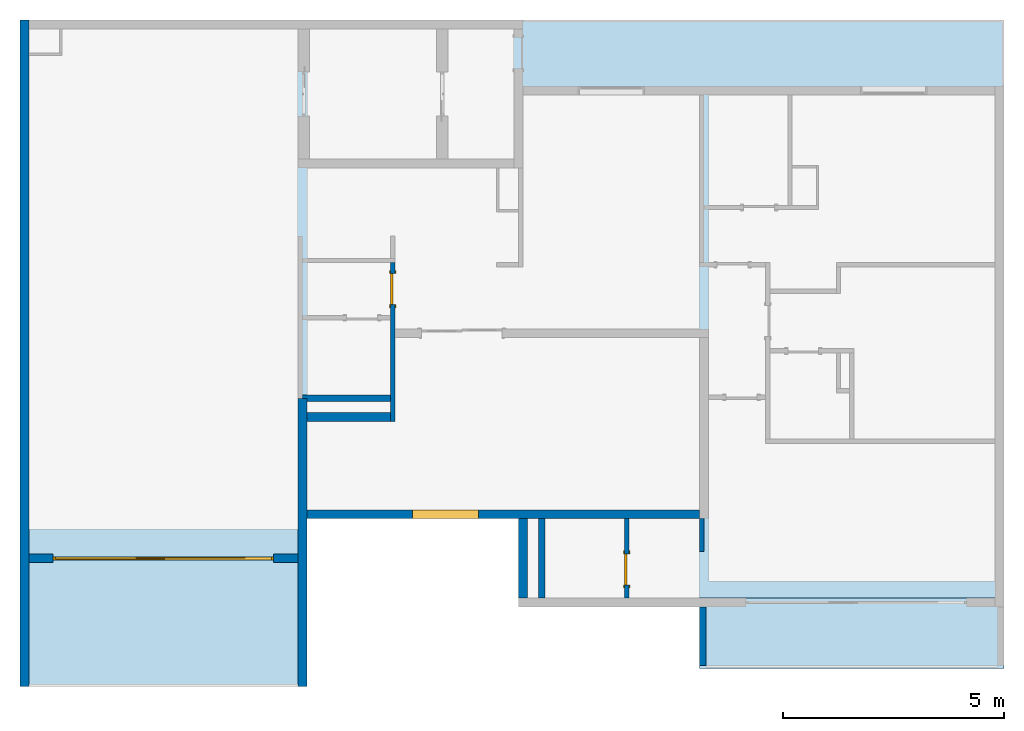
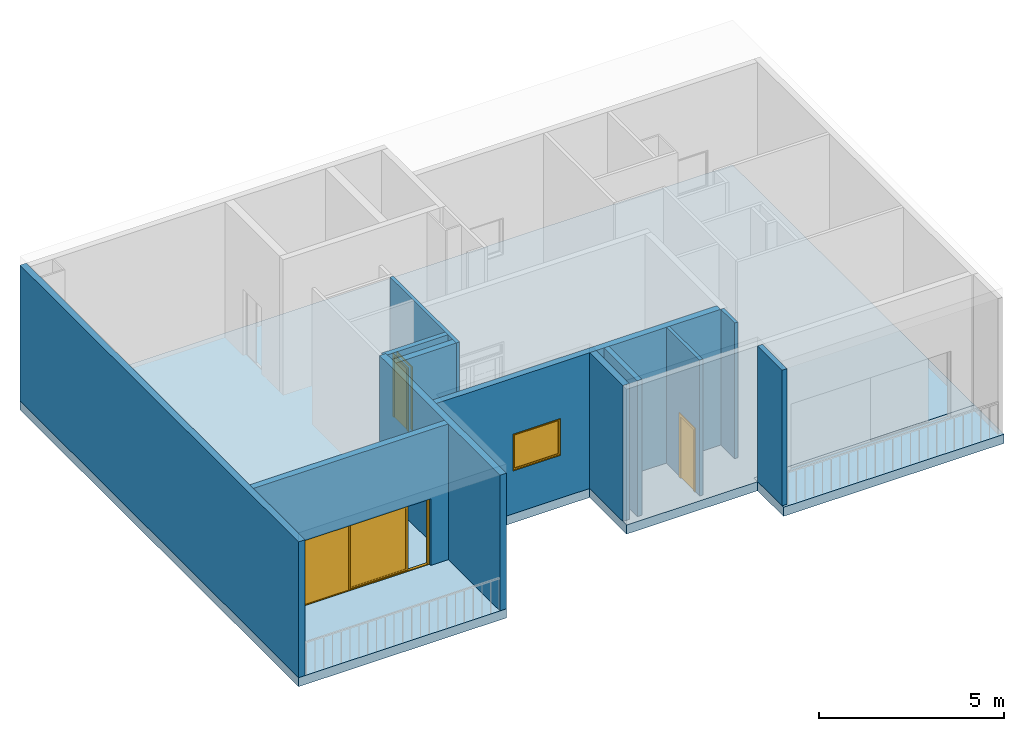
# One storey, part 1 of 7: 12 walls, 3 doors, 2 slabs, 1 window, 4 openings.
"""IFC2X3 building model written with IfcOpenShell, lengths in metres."""

from ifc_helpers import new_model, entity, si_unit, converted_unit, derived_unit, direction, frame, frame_2d, origin, origin_2d_with_axis, place, context, subcontext, project, spatial, polyline, rectangle, outline, extrude, faceted_brep, source, transform, mapped, material, material_list, layer, layer_set, layer_usage, type_object, type_shapes, element, fill, save


model = new_model("IFC2X3")

# Units and contexts
model_context = context("Model", 3, precision=1e-05, world=origin(), true_north=direction((6.123031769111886e-17, 1.0)))
body_context = subcontext(model_context, "Body", "Model", "MODEL_VIEW")
ifc_project = project(units=[si_unit("LENGTHUNIT", "METRE"), si_unit("AREAUNIT", "SQUARE_METRE"), si_unit("VOLUMEUNIT", "CUBIC_METRE"), converted_unit("PLANEANGLEUNIT", "DEGREE", entity("IfcRatioMeasure", 0.017453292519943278), si_unit("PLANEANGLEUNIT", "RADIAN"), dimensions=[0, 0, 0, 0, 0, 0, 0]), si_unit("MASSUNIT", "GRAM", prefix="KILO"), derived_unit("MASSDENSITYUNIT", [(si_unit("MASSUNIT", "GRAM", prefix="KILO"), 1), (si_unit("LENGTHUNIT", "METRE"), -3)]), derived_unit("MOMENTOFINERTIAUNIT", [(si_unit("LENGTHUNIT", "METRE"), 4)]), si_unit("TIMEUNIT", "SECOND"), si_unit("FREQUENCYUNIT", "HERTZ"), si_unit("THERMODYNAMICTEMPERATUREUNIT", "DEGREE_CELSIUS"), derived_unit("THERMALTRANSMITTANCEUNIT", [(si_unit("MASSUNIT", "GRAM", prefix="KILO"), 1), (si_unit("THERMODYNAMICTEMPERATUREUNIT", "KELVIN"), -1), (si_unit("TIMEUNIT", "SECOND"), -3)]), derived_unit("VOLUMETRICFLOWRATEUNIT", [(si_unit("LENGTHUNIT", "METRE"), 3), (si_unit("TIMEUNIT", "SECOND"), -1)]), derived_unit("MASSFLOWRATEUNIT", [(si_unit("MASSUNIT", "GRAM", prefix="KILO"), 1), (si_unit("TIMEUNIT", "SECOND"), -1)]), derived_unit("ROTATIONALFREQUENCYUNIT", [(si_unit("TIMEUNIT", "SECOND"), -1)]), si_unit("ELECTRICCURRENTUNIT", "AMPERE"), si_unit("ELECTRICVOLTAGEUNIT", "VOLT"), si_unit("POWERUNIT", "WATT"), si_unit("FORCEUNIT", "NEWTON", prefix="KILO"), si_unit("ILLUMINANCEUNIT", "LUX"), si_unit("LUMINOUSFLUXUNIT", "LUMEN"), si_unit("LUMINOUSINTENSITYUNIT", "CANDELA"), derived_unit("USERDEFINED", [(si_unit("MASSUNIT", "GRAM", prefix="KILO"), -1), (si_unit("LENGTHUNIT", "METRE"), -2), (si_unit("TIMEUNIT", "SECOND"), 3), (si_unit("LUMINOUSFLUXUNIT", "LUMEN"), 1)]), derived_unit("SOUNDPOWERUNIT", [(si_unit("MASSUNIT", "GRAM", prefix="KILO"), 1), (si_unit("LENGTHUNIT", "METRE"), 2), (si_unit("TIMEUNIT", "SECOND"), -3)]), derived_unit("SOUNDPRESSUREUNIT", [(si_unit("MASSUNIT", "GRAM", prefix="KILO"), 1), (si_unit("LENGTHUNIT", "METRE"), -1), (si_unit("TIMEUNIT", "SECOND"), -2)]), derived_unit("LINEARVELOCITYUNIT", [(si_unit("LENGTHUNIT", "METRE"), 1), (si_unit("TIMEUNIT", "SECOND"), -1)]), si_unit("PRESSUREUNIT", "PASCAL"), derived_unit("USERDEFINED", [(si_unit("LENGTHUNIT", "METRE"), -2), (si_unit("MASSUNIT", "GRAM", prefix="KILO"), 1), (si_unit("TIMEUNIT", "SECOND"), -2)]), derived_unit("LINEARFORCEUNIT", [(si_unit("MASSUNIT", "GRAM", prefix="KILO"), 1), (si_unit("LENGTHUNIT", "METRE"), 1), (si_unit("TIMEUNIT", "SECOND"), -2), (si_unit("LENGTHUNIT", "METRE"), -1)]), derived_unit("PLANARFORCEUNIT", [(si_unit("MASSUNIT", "GRAM", prefix="KILO"), 1), (si_unit("LENGTHUNIT", "METRE"), 1), (si_unit("TIMEUNIT", "SECOND"), -2), (si_unit("LENGTHUNIT", "METRE"), -2)])], contexts=[model_context])

# Site, building, storey
site_placement = place(None, origin())
site = spatial("IfcSite", under=ifc_project, at=site_placement, Name="Default", CompositionType="ELEMENT")
building_placement = place(site_placement, origin())
building = spatial("IfcBuilding", under=site, at=building_placement, CompositionType="ELEMENT")
storey_placement = place(building_placement, frame((0.0, 0.0, 5.639999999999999)))
storey = spatial("IfcBuildingStorey", under=building, at=storey_placement, Name="F1", CompositionType="ELEMENT", Elevation=5.639999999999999)

# Slabs
ifc_material_1 = material(Name="Default Floor")
ifc_layer_1 = layer(ifc_material_1, 0.29999999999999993)
ifc_layer_set_1 = layer_set([ifc_layer_1], Name="Floor:Generic 300mm")
ifc_layer_usage_1 = layer_usage(ifc_layer_set_1, "AXIS3", "POSITIVE", 0.0)
slab_type_1 = type_object("IfcSlabType", Name="Floor:Generic 300mm", PredefinedType="FLOOR", material=ifc_layer_set_1)
slab_1_placement = place(storey_placement, origin())
element("IfcSlab", 1, at=slab_1_placement, inside=storey, type_object=slab_type_1, material=ifc_layer_usage_1, Name="Floor:Generic 300mm", ObjectType="Floor:Generic 300mm", PredefinedType="FLOOR", context=body_context, shape_type="SweptSolid", body=[
    extrude(outline(polyline([(-5.174999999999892, -10.025000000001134), (9.924999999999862, -10.025000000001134), (9.924999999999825, 12.275000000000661), (-3.375000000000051, 12.275000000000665), (-3.375000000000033, 1.2750000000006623), (-1.3749999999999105, 1.275000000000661), (-1.3749999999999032, -3.525000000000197), (-5.174999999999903, -3.525000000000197), (-5.174999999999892, -10.025000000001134)])), frame((16.63268321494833, -3.922392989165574, 0.0), z_axis=(0.0, 0.0, -1.0), x_axis=(0.0, 1.0, 0.0)), (0.0, 0.0, 1.0), 0.30000000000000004),
])
ifc_layer_usage_2 = layer_usage(ifc_layer_set_1, "AXIS3", "POSITIVE", 0.0)
slab_type_2 = type_object("IfcSlabType", Name="Floor:Generic 300mm", PredefinedType="FLOOR", material=ifc_layer_set_1)
slab_2_placement = place(storey_placement, origin())
element("IfcSlab", 2, at=slab_2_placement, inside=storey, type_object=slab_type_2, material=ifc_layer_usage_2, Name="Floor:Generic 300mm", ObjectType="Floor:Generic 300mm", PredefinedType="FLOOR", context=body_context, shape_type="SweptSolid", body=[
    extrude(rectangle(XDim=1.6000000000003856, YDim=6.899999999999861, at=origin_2d_with_axis()), frame((25.457683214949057, -7.8973929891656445, 0.0), z_axis=(0.0, 0.0, -1.0), x_axis=(0.0, 1.0, 0.0)), (0.0, 0.0, 1.0), 0.30000000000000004),
])

# Walls
ifc_material_2 = material(Name="Masonry - Concrete Block")
ifc_layer_2 = layer(ifc_material_2, 0.2)
ifc_layer_set_2 = layer_set([ifc_layer_2], Name="Basic Wall:CW 200")
ifc_layer_usage_3 = layer_usage(ifc_layer_set_2, "AXIS2", "NEGATIVE", 0.1)
wall_type_1 = type_object("IfcWallType", Name="Basic Wall:CW 200", PredefinedType="STANDARD", material=ifc_layer_set_2)
wall_1_placement = place(storey_placement, frame((6.707683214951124, -9.097392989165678, 0.0), z_axis=(0.0, 0.0, 1.0), x_axis=(0.0, 1.0, 0.0)))
element("IfcWallStandardCase", 3, at=wall_1_placement, inside=storey, type_object=wall_type_1, material=ifc_layer_usage_3, Name="Basic Wall:CW 200", ObjectType="Basic Wall:CW 200", context=body_context, shape_type="SweptSolid", body=[
    extrude(rectangle(XDim=15.100000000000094, YDim=0.2, at=frame_2d((7.550000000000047, 1.5959455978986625e-16), x_axis=(-1.0, 0.0))), origin(), (0.0, 0.0, 1.0), 4.490000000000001),
])
ifc_layer_usage_4 = layer_usage(ifc_layer_set_2, "AXIS2", "NEGATIVE", 0.1)
wall_2_placement = place(storey_placement, frame((13.007683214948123, -9.097392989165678, 0.0), z_axis=(0.0, 0.0, 1.0), x_axis=(0.0, 1.0, 0.0)))
element("IfcWallStandardCase", 4, at=wall_2_placement, inside=storey, type_object=wall_type_1, material=ifc_layer_usage_4, Name="Basic Wall:CW 200", ObjectType="Basic Wall:CW 200", context=body_context, shape_type="SweptSolid", body=[
    extrude(rectangle(XDim=6.52500000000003, YDim=0.19999999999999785, at=frame_2d((3.262500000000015, -3.469446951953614e-17), x_axis=(-1.0, 0.0))), origin(), (0.0, 0.0, 1.0), 4.490000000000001),
])

# Wall, opening, door
ifc_layer_usage_5 = layer_usage(ifc_layer_set_2, "AXIS2", "NEGATIVE", 0.1)
wall_3_placement = place(storey_placement, frame((12.907683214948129, -6.197392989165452, 0.0), z_axis=(0.0, 0.0, 1.0), x_axis=(-1.0, 0.0, 0.0)))
wall_3 = element("IfcWallStandardCase", 5, at=wall_3_placement, inside=storey, type_object=wall_type_1, material=ifc_layer_usage_5, Name="Basic Wall:CW 200", ObjectType="Basic Wall:CW 200", context=body_context, shape_type="SweptSolid", body=[
    extrude(rectangle(XDim=6.099999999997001, YDim=0.2, at=frame_2d((3.0499999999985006, 0.0), x_axis=(1.0, 0.0))), origin(), (0.0, 0.0, 1.0), 4.490000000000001),
])
opening_1_placement = place(wall_3_placement, frame((5.549999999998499, 0.09999999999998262, 0.0)))
opening_1 = element("IfcOpeningElement", 6, at=opening_1_placement, cuts=wall_3, Name="Parametric_Operable_Sliding_Door_6386.0004:5M:1", ObjectType="Opening", context=body_context, shape_type="SweptSolid", body=[
    extrude(rectangle(XDim=2.199999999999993, YDim=4.999999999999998, at=frame_2d((1.0999999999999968, 2.499999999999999), x_axis=(1.0, 0.0))), frame((0.0, 0.0, 0.0), z_axis=(0.0, -1.0, 0.0), x_axis=(0.0, 0.0, 1.0)), (0.0, 0.0, 1.0), 0.2),
])
ifc_material_3 = material(Name="Window Glass")
ifc_material_4 = material(Name="Window Frame")
ifc_material_list_1 = material_list([ifc_material_3, ifc_material_4])
ifc_material_list_2 = material_list([ifc_material_3, ifc_material_4, ifc_material_3, ifc_material_4])
door_style_1 = type_object("IfcDoorStyle", Name="Parametric_Operable_Sliding_Door_6386.0004:5M", ConstructionType="NOTDEFINED", OperationType="NOTDEFINED", ParameterTakesPrecedence=False, Sizeable=False, material=ifc_material_list_2)
shared_shape_1 = source(origin(), body_context, "Body", "Brep", [
    faceted_brep([(0.7200000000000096, 0.0875000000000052, 2.080000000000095), (0.7200000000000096, 0.0875000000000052, 0.07000000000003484), (0.7200000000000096, 0.0775000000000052, 0.07000000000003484), (0.7200000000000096, 0.0775000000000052, 2.080000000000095), (3.0550000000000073, 0.0875000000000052, 2.080000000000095), (3.0550000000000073, 0.0875000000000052, 0.07000000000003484), (3.0550000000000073, 0.0775000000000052, 0.07000000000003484), (3.0550000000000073, 0.0775000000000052, 2.080000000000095)], [[[0, 1, 2, 3]], [[1, 0, 4, 5]], [[2, 1, 5, 6]], [[3, 2, 6, 7]], [[4, 7, 6, 5]], [[0, 3, 7, 4]]]),
    faceted_brep([(0.7200000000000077, 0.09499999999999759, 0.06999999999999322), (0.7200000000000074, 0.06999999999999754, 0.06999999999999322), (3.055000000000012, 0.06999999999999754, 0.06999999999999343), (3.055000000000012, 0.09499999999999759, 0.0699999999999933), (0.7200000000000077, 0.09499999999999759, 2.080000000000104), (0.7200000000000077, 0.06999999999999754, 2.080000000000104), (3.05500000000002, 0.09499999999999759, 2.080000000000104), (3.125000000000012, 0.09499999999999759, 2.150000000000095), (3.125000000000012, 0.09499999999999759, 0.02500000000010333), (0.6500000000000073, 0.09499999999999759, 0.0250000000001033), (0.6500000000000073, 0.09499999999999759, 2.1499999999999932), (3.055000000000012, 0.06999999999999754, 2.080000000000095), (0.6500000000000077, 0.06999999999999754, 2.1500000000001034), (0.6500000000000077, 0.06999999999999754, 0.02500000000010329), (3.125000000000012, 0.06999999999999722, 0.02500000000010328), (3.125000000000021, 0.06999999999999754, 2.1499999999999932), (0.04999999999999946, 0.06500000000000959, 0.02500000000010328), (4.949999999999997, 0.06499999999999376, 0.025000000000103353), (4.949999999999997, 0.13499999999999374, 0.025000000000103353), (0.05, 0.13500000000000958, 0.02500000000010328), (5.0, 0.0649999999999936, 0.0), (5.0, 0.0649999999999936, 2.199999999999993), (0.0, 0.06500000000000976, 2.199999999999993), (0.0, 0.06500000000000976, 0.0), (0.05, 0.06500000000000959, 2.1499999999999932), (4.949999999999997, 0.06499999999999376, 2.1499999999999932), (0.0, 0.13500000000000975, 0.0), (5.0, 0.1349999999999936, 0.0), (0.0, 0.13500000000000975, 2.199999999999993), (5.0, 0.1349999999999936, 2.199999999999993), (0.05, 0.13500000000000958, 2.1499999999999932), (4.949999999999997, 0.13499999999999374, 2.1499999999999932)], [[[0, 1, 2, 3]], [[1, 0, 4, 5]], [[4, 0, 3, 6], [7, 8, 9, 10]], [[1, 5, 11, 2], [12, 13, 14, 15]], [[13, 12, 10, 9]], [[13, 9, 8, 14], [16, 17, 18, 19]], [[11, 6, 3, 2]], [[15, 14, 8, 7]], [[20, 21, 22, 23], [24, 25, 17, 16]], [[20, 23, 26, 27]], [[23, 22, 28, 26]], [[27, 26, 28, 29], [30, 19, 18, 31]], [[21, 20, 27, 29]], [[17, 25, 31, 18]], [[24, 16, 19, 30]], [[5, 4, 6, 11]], [[22, 21, 29, 28]], [[10, 12, 15, 7], [25, 24, 30, 31]]], outer=[[True], [True], [False, True], [False, True], [True], [False, True], [True], [True], [True, False], [True], [True], [True, False], [True], [True], [True], [True], [True], [False, True]]),
    faceted_brep([(2.5249999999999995, 0.11499999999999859, 2.1499999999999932), (2.5249999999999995, 0.11499999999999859, 0.02500000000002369), (4.949999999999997, 0.11499999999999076, 0.02500000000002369), (4.949999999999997, 0.11499999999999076, 2.1499999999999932), (2.5249999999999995, 0.12099999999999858, 2.1499999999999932), (2.5249999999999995, 0.12099999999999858, 0.02500000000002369), (4.949999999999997, 0.12099999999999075, 0.02500000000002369), (4.949999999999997, 0.12099999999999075, 2.1499999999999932)], [[[0, 1, 2, 3]], [[1, 0, 4, 5]], [[2, 1, 5, 6]], [[3, 2, 6, 7]], [[4, 7, 6, 5]], [[0, 3, 7, 4]]]),
    faceted_brep([(2.474999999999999, 0.09999999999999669, 2.1499999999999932), (2.474999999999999, 0.09999999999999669, 0.025000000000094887), (2.5249999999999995, 0.09999999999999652, 0.02500000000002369), (2.5249999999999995, 0.09999999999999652, 2.1499999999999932), (2.474999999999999, 0.1300000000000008, 2.1499999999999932), (2.474999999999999, 0.1300000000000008, 0.025000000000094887), (2.5249999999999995, 0.13000000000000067, 0.02500000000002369), (2.5249999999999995, 0.13000000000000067, 2.1499999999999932)], [[[0, 1, 2, 3]], [[1, 0, 4, 5]], [[2, 1, 5, 6]], [[3, 2, 6, 7]], [[4, 7, 6, 5]], [[0, 3, 7, 4]]]),
])
type_shapes(door_style_1, [shared_shape_1])
door_1_placement = place(opening_1_placement, frame((-5.0, -0.1999999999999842, 0.0)))
door_1 = element("IfcDoor", 7, at=door_1_placement, inside=storey, type_object=door_style_1, material=ifc_material_list_1, Name="Parametric_Operable_Sliding_Door_6386.0004:5M", ObjectType="Parametric_Operable_Sliding_Door_6386.0004:5M", OverallHeight=2.1999999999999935, OverallWidth=4.999999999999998, context=body_context, shape_type="MappedRepresentation", body=[
    mapped(shared_shape_1, transform((0.0, 0.0, 0.0), scale=1.0)),
])
fill(opening_1, door_1)

# Wall
ifc_layer_usage_6 = layer_usage(ifc_layer_set_2, "AXIS2", "NEGATIVE", 0.1)
wall_4_placement = place(storey_placement, frame((13.107683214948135, -2.997392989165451, 0.0)))
element("IfcWallStandardCase", 8, at=wall_4_placement, inside=storey, type_object=wall_type_1, material=ifc_layer_usage_6, Name="Basic Wall:CW 200", ObjectType="Basic Wall:CW 200", context=body_context, shape_type="SweptSolid", body=[
    extrude(rectangle(XDim=1.900000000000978, YDim=0.2, at=frame_2d((0.950000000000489, 1.1102230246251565e-16), x_axis=(-1.0, 0.0))), origin(), (0.0, 0.0, 1.0), 4.490000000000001),
])

# Wall, opening, window
ifc_layer_usage_7 = layer_usage(ifc_layer_set_2, "AXIS2", "NEGATIVE", 0.1)
wall_5_placement = place(storey_placement, frame((22.00768321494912, -5.20029257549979, 0.0), z_axis=(0.0, 0.0, 1.0), x_axis=(-1.0, 0.0, 0.0)))
wall_5 = element("IfcWallStandardCase", 9, at=wall_5_placement, inside=storey, type_object=wall_type_1, material=ifc_layer_usage_7, Name="Basic Wall:CW 200", ObjectType="Basic Wall:CW 200", context=body_context, shape_type="SweptSolid", body=[
    extrude(rectangle(XDim=8.900000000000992, YDim=0.2, at=frame_2d((4.450000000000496, -4.163336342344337e-17), x_axis=(-1.0, 0.0))), origin(), (0.0, 0.0, 1.0), 4.490000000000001),
])
opening_2_placement = place(wall_5_placement, frame((5.007500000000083, -0.10000000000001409, 1.4150000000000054)))
opening_2 = element("IfcOpeningElement", 10, at=opening_2_placement, cuts=wall_5, Name="M_Fixed:0915 x 1220mm:1", ObjectType="Opening", context=body_context, shape_type="SweptSolid", body=[
    extrude(rectangle(XDim=1.2199999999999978, YDim=1.4999999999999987, at=frame_2d((0.6099999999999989, 0.7499999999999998), x_axis=(1.0, 0.0))), frame((0.0, 0.0, 0.0), z_axis=(0.0, 1.0, 0.0), x_axis=(0.0, 0.0, 1.0)), (0.0, 0.0, 1.0), 0.2),
])
ifc_material_5 = material(Name="Glass")
ifc_material_6 = material(Name="Sash")
ifc_material_list_3 = material_list([ifc_material_5, ifc_material_6, ifc_material_6, ifc_material_6])
ifc_material_list_4 = material_list([ifc_material_5, ifc_material_6, ifc_material_6, ifc_material_6])
window_style = type_object("IfcWindowStyle", Name="M_Fixed:0915 x 1220mm", ConstructionType="NOTDEFINED", OperationType="NOTDEFINED", ParameterTakesPrecedence=False, Sizeable=False, material=ifc_material_list_4)
shared_shape_2 = source(origin(), body_context, "Body", "SweptSolid", [
    extrude(rectangle(XDim=0.011999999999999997, YDim=1.3739999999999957, at=frame_2d((8.239936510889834e-18, 0.0), x_axis=(1.0, 0.0))), frame((0.7500000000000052, 0.15899999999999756, 0.06299999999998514), z_axis=(0.0, 0.0, 1.0), x_axis=(0.0, -1.0, 0.0)), (0.0, 0.0, 1.0), 1.0940000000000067),
    extrude(outline(polyline([(-0.7309999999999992, -0.5910000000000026), (0.7309999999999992, -0.5910000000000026), (0.7309999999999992, 0.5910000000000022), (-0.7309999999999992, 0.5910000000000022), (-0.7309999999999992, -0.5910000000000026)]), holes=[polyline([(-0.686999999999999, -0.5470000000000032), (-0.686999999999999, 0.5470000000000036), (0.6869999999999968, 0.5470000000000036), (0.6869999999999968, -0.5470000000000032), (-0.686999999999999, -0.5470000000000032)])]), frame((0.7500000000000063, 0.13699999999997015, 0.6099999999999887), z_axis=(0.0, 1.0, 0.0), x_axis=(1.0, 0.0, 0.0)), (0.0, 0.0, 1.0), 0.04400000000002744),
    extrude(outline(polyline([(-0.749999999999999, -0.609999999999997), (0.749999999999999, -0.609999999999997), (0.749999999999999, 0.609999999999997), (-0.749999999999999, 0.609999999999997), (-0.749999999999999, -0.609999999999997)]), holes=[polyline([(-0.7310000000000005, -0.5909999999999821), (-0.7310000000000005, 0.5910000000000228), (0.7309999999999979, 0.5910000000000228), (0.7309999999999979, -0.5909999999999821), (-0.7310000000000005, -0.5909999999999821)])]), frame((0.7500000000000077, 0.13699999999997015, 0.6100000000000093), z_axis=(0.0, 1.0, 0.0), x_axis=(1.0, 0.0, 0.0)), (0.0, 0.0, 1.0), 0.06300000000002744),
    extrude(outline(polyline([(-0.7499999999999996, -0.6099999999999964), (0.7499999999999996, -0.6099999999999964), (0.7499999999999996, 0.6099999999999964), (-0.7499999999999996, 0.6099999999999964), (-0.7499999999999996, -0.6099999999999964)]), holes=[polyline([(-0.7179999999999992, -0.5779999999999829), (-0.7179999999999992, 0.5780000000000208), (0.7179999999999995, 0.5780000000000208), (0.7179999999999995, -0.5779999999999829), (-0.7179999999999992, -0.5779999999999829)])]), frame((0.750000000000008, 0.0, 0.6100000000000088), z_axis=(0.0, 1.0, 0.0), x_axis=(1.0, 0.0, 0.0)), (0.0, 0.0, 1.0), 0.1369999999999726),
])
type_shapes(window_style, [shared_shape_2])
window_placement = place(opening_2_placement, origin())
window = element("IfcWindow", 11, at=window_placement, inside=storey, type_object=window_style, material=ifc_material_list_3, Name="M_Fixed:0915 x 1220mm", ObjectType="M_Fixed:0915 x 1220mm", OverallHeight=1.2199999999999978, OverallWidth=1.4999999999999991, context=body_context, shape_type="MappedRepresentation", body=[
    mapped(shared_shape_2, transform((0.0, 0.0, 0.0), scale=1.0)),
])
fill(opening_2, window)

# Wall
ifc_layer_usage_8 = layer_usage(ifc_layer_set_2, "AXIS2", "NEGATIVE", 0.1)
wall_6_placement = place(storey_placement, frame((18.007683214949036, -7.097392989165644, 0.0), z_axis=(0.0, 0.0, 1.0), x_axis=(0.0, 1.0, 0.0)))
element("IfcWallStandardCase", 12, at=wall_6_placement, inside=storey, type_object=wall_type_1, material=ifc_layer_usage_8, Name="Basic Wall:CW 200", ObjectType="Basic Wall:CW 200", context=body_context, shape_type="SweptSolid", body=[
    extrude(rectangle(XDim=1.7971004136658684, YDim=0.19999999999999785, at=frame_2d((0.8985502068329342, -5.551115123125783e-17), x_axis=(-1.0, 0.0))), origin(), (0.0, 0.0, 1.0), 4.490000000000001),
])

# Wall, opening, door
ifc_layer_3 = layer(ifc_material_2, 0.1)
ifc_layer_set_3 = layer_set([ifc_layer_3], Name="Basic Wall:CW 100")
ifc_layer_usage_9 = layer_usage(ifc_layer_set_3, "AXIS2", "NEGATIVE", 0.05)
wall_type_2 = type_object("IfcWallType", Name="Basic Wall:CW 100", PredefinedType="STANDARD", material=ifc_layer_set_3)
wall_7_placement = place(storey_placement, frame((15.057683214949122, 0.5026070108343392, 0.0), z_axis=(0.0, 0.0, 1.0), x_axis=(0.0, -1.0, 0.0)))
wall_7 = element("IfcWallStandardCase", 13, at=wall_7_placement, inside=storey, type_object=wall_type_2, material=ifc_layer_usage_9, Name="Basic Wall:CW 100", ObjectType="Basic Wall:CW 100", context=body_context, shape_type="SweptSolid", body=[
    extrude(rectangle(XDim=3.5999999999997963, YDim=0.10000000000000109, at=frame_2d((1.7999999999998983, -8.916478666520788e-16), x_axis=(1.0, 0.0))), origin(), (0.0, 0.0, 1.0), 4.490000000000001),
])
opening_3_placement = place(wall_7_placement, frame((0.9500000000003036, 0.04999999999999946, 0.0)))
opening_3 = element("IfcOpeningElement", 14, at=opening_3_placement, cuts=wall_7, Name="M_Single-Flush:0762 x 2032mm:1", ObjectType="Opening", context=body_context, shape_type="SweptSolid", body=[
    extrude(rectangle(XDim=0.7, YDim=2.0319999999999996, at=frame_2d((1.0159999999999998, 0.34999999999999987), x_axis=(0.0, 1.0))), frame((0.0, 0.0, 0.0), z_axis=(0.0, -1.0, 0.0), x_axis=(0.0, 0.0, 1.0)), (0.0, 0.0, 1.0), 0.1),
])
ifc_material_7 = material(Name="Door - Frame")
ifc_material_8 = material(Name="Door - Panel")
ifc_material_list_5 = material_list([ifc_material_7, ifc_material_8])
ifc_material_list_6 = material_list([ifc_material_7, ifc_material_7, ifc_material_8])
door_style_2 = type_object("IfcDoorStyle", Name="M_Single-Flush:0762 x 2032mm", ConstructionType="NOTDEFINED", OperationType="NOTDEFINED", ParameterTakesPrecedence=False, Sizeable=False, material=ifc_material_list_6)
shared_shape_3 = source(origin(), body_context, "Body", "SweptSolid", [
    extrude(outline(polyline([(-0.426, -1.0729999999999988), (0.4259999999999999, -1.0729999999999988), (0.4259999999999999, 1.0350000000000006), (0.3499999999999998, 1.0350000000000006), (0.3499999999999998, -0.9970000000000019), (-0.3499999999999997, -0.9970000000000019), (-0.3499999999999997, 1.0350000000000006), (-0.426, 1.0350000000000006), (-0.426, -1.0729999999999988)])), frame((0.3500000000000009, 0.10000000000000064, 1.0350000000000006), z_axis=(0.0, 1.0, 0.0), x_axis=(1.0, 0.0, 0.0)), (0.0, 0.0, 1.0), 0.024999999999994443),
    extrude(outline(polyline([(-1.0729999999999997, -0.42599999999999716), (1.0349999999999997, -0.42599999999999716), (1.0349999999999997, -0.3500000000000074), (-0.9969999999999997, -0.3500000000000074), (-0.9969999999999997, 0.35000000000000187), (1.0349999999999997, 0.35000000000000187), (1.0349999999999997, 0.4260000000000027), (-1.0729999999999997, 0.4260000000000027), (-1.0729999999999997, -0.42599999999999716)])), frame((0.35000000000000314, -0.025000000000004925, 1.0349999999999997), z_axis=(0.0, 1.0, 0.0), x_axis=(0.0, 0.0, -1.0)), (0.0, 0.0, 1.0), 0.025000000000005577),
    extrude(rectangle(XDim=0.051000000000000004, YDim=0.6999999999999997, at=origin_2d_with_axis()), frame((0.3500000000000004, 0.07450000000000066, 0.0), z_axis=(0.0, 0.0, 1.0), x_axis=(0.0, 1.0, 0.0)), (0.0, 0.0, 1.0), 2.0319999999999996),
])
type_shapes(door_style_2, [shared_shape_3])
door_2_placement = place(opening_3_placement, frame((0.0, 0.0, 0.0), z_axis=(0.0, 0.0, 1.0), x_axis=(-1.0, 0.0, 0.0)))
door_2 = element("IfcDoor", 15, at=door_2_placement, inside=storey, type_object=door_style_2, material=ifc_material_list_5, Name="M_Single-Flush:0762 x 2032mm", ObjectType="M_Single-Flush:0762 x 2032mm", OverallHeight=2.0319999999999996, OverallWidth=0.7, context=body_context, shape_type="MappedRepresentation", body=[
    mapped(shared_shape_3, transform((0.0, 0.0, 0.0), scale=1.0)),
])
fill(opening_3, door_2)

ifc_layer_usage_10 = layer_usage(ifc_layer_set_3, "AXIS2", "NEGATIVE", 0.05)
wall_8_placement = place(storey_placement, frame((20.357683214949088, -5.3002925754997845, 0.0), z_axis=(0.0, 0.0, 1.0), x_axis=(0.0, -1.0, 0.0)))
wall_8 = element("IfcWallStandardCase", 16, at=wall_8_placement, inside=storey, type_object=wall_type_2, material=ifc_layer_usage_10, Name="Basic Wall:CW 100", ObjectType="Basic Wall:CW 100", context=body_context, shape_type="SweptSolid", body=[
    extrude(rectangle(XDim=1.7971004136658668, YDim=0.09999999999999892, at=frame_2d((0.8985502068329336, 2.1649348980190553e-15), x_axis=(1.0, 0.0))), origin(), (0.0, 0.0, 1.0), 4.490000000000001),
])
opening_4_placement = place(wall_8_placement, frame((1.497100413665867, 0.04999999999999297, 0.0)))
opening_4 = element("IfcOpeningElement", 17, at=opening_4_placement, cuts=wall_8, Name="M_Single-Flush:0762 x 2032mm:1", ObjectType="Opening", context=body_context, shape_type="SweptSolid", body=[
    extrude(rectangle(XDim=0.6999999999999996, YDim=2.0319999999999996, at=frame_2d((1.0159999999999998, 0.3500000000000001), x_axis=(0.0, 1.0))), frame((0.0, 0.0, 0.0), z_axis=(0.0, -1.0, 0.0), x_axis=(0.0, 0.0, 1.0)), (0.0, 0.0, 1.0), 0.1),
])
ifc_material_list_7 = material_list([ifc_material_7, ifc_material_8])
door_3_placement = place(opening_4_placement, frame((0.0, 0.0, 0.0), z_axis=(0.0, 0.0, 1.0), x_axis=(-1.0, 0.0, 0.0)))
door_3 = element("IfcDoor", 18, at=door_3_placement, inside=storey, type_object=door_style_2, material=ifc_material_list_7, Name="M_Single-Flush:0762 x 2032mm", ObjectType="M_Single-Flush:0762 x 2032mm", OverallHeight=2.0319999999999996, OverallWidth=0.7000000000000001, context=body_context, shape_type="MappedRepresentation", body=[
    mapped(shared_shape_3, transform((0.0, 0.0, 0.0), scale=1.0)),
])
fill(opening_4, door_3)

# Walls
ifc_layer_usage_11 = layer_usage(ifc_layer_set_3, "AXIS2", "NEGATIVE", 0.05)
wall_9_placement = place(storey_placement, frame((22.05768321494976, -5.30029257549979, 0.0), z_axis=(0.0, 0.0, 1.0), x_axis=(0.0, -1.0, 0.0)))
element("IfcWallStandardCase", 19, at=wall_9_placement, inside=storey, type_object=wall_type_2, material=ifc_layer_usage_11, Name="Basic Wall:CW 100", ObjectType="Basic Wall:CW 100", context=body_context, shape_type="SweptSolid", body=[
    extrude(rectangle(XDim=0.7471004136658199, YDim=0.10000000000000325, at=frame_2d((0.37355020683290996, 0.0), x_axis=(-1.0, 0.0))), origin(), (0.0, 0.0, 1.0), 4.490000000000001),
])
ifc_layer_4 = layer(ifc_material_2, 0.14999999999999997)
ifc_layer_set_4 = layer_set([ifc_layer_4], Name="Basic Wall:CW 150")
ifc_layer_usage_12 = layer_usage(ifc_layer_set_4, "AXIS2", "NEGATIVE", 0.07499999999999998)
wall_type_3 = type_object("IfcWallType", Name="Basic Wall:CW 150", PredefinedType="STANDARD", material=ifc_layer_set_4)
wall_10_placement = place(storey_placement, frame((15.007683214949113, -2.5723929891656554, 0.0), z_axis=(0.0, 0.0, 1.0), x_axis=(-1.0, 0.0, 0.0)))
element("IfcWallStandardCase", 20, at=wall_10_placement, inside=storey, type_object=wall_type_3, material=ifc_layer_usage_12, Name="Basic Wall:CW 150", ObjectType="Basic Wall:CW 150", context=body_context, shape_type="SweptSolid", body=[
    extrude(outline(polyline([(-0.07500000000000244, -0.7000000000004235), (0.0, -0.7000000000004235), (0.0, -0.6000000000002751), (0.07499999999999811, -0.6000000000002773), (0.07500000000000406, 1.300000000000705), (-0.07499999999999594, 1.300000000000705), (-0.07500000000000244, -0.7000000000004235)])), frame((1.3000000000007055, 0.0, 0.0), z_axis=(0.0, 0.0, 1.0), x_axis=(0.0, 1.0, 0.0)), (0.0, 0.0, 1.0), 4.49),
])
ifc_layer_usage_13 = layer_usage(ifc_layer_set_4, "AXIS2", "NEGATIVE", 0.07499999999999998)
wall_11_placement = place(storey_placement, frame((18.432683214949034, -5.300292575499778, 0.0), z_axis=(0.0, 0.0, 1.0), x_axis=(0.0, -1.0, 0.0)))
element("IfcWallStandardCase", 21, at=wall_11_placement, inside=storey, type_object=wall_type_3, material=ifc_layer_usage_13, Name="Basic Wall:CW 150", ObjectType="Basic Wall:CW 150", context=body_context, shape_type="SweptSolid", body=[
    extrude(rectangle(XDim=1.797100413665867, YDim=0.15000000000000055, at=frame_2d((0.8985502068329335, -5.551115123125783e-17), x_axis=(-1.0, 0.0))), origin(), (0.0, 0.0, 1.0), 4.490000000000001),
])
ifc_layer_usage_14 = layer_usage(ifc_layer_set_4, "AXIS2", "NEGATIVE", 0.07499999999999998)
wall_12_placement = place(storey_placement, frame((22.082683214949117, -7.297392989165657, 0.0), z_axis=(0.0, 0.0, 1.0), x_axis=(0.0, -1.0, 0.0)))
element("IfcWallStandardCase", 22, at=wall_12_placement, inside=storey, type_object=wall_type_3, material=ifc_layer_usage_14, Name="Basic Wall:CW 150", ObjectType="Basic Wall:CW 150", context=body_context, shape_type="SweptSolid", body=[
    extrude(rectangle(XDim=1.3250000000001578, YDim=0.15000000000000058, at=frame_2d((0.6625000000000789, -1.1102230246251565e-16), x_axis=(-1.0, 0.0))), origin(), (0.0, 0.0, 1.0), 4.490000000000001),
])

save(model, "model.ifc")
